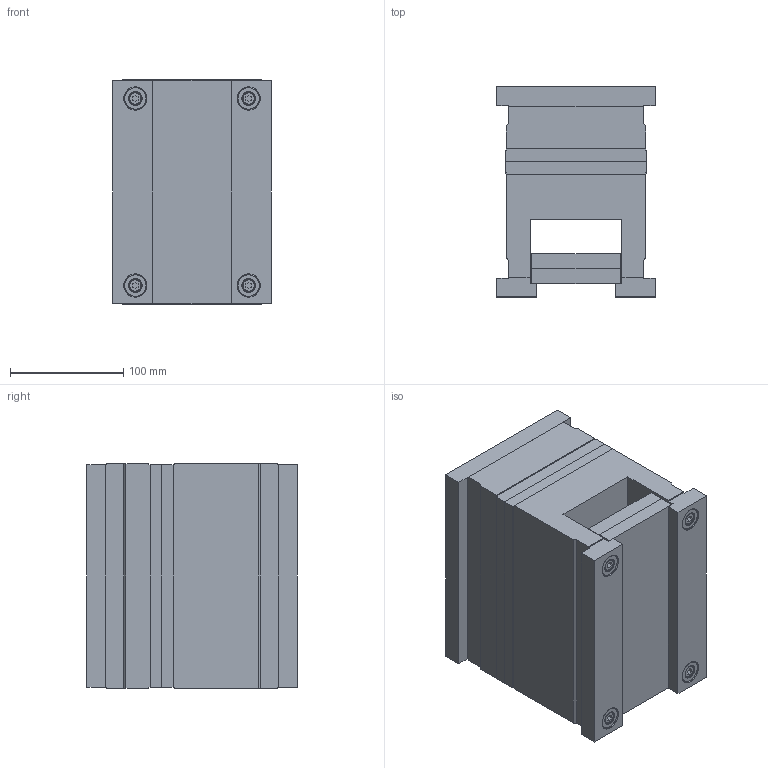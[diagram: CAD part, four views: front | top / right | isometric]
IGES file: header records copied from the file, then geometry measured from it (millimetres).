
Start section: SolidWorks IGES FILE using analytic representation for surfaces
Global section: file name: C:\Documents and Settings\K.P\My Documents\Mechanical\ALMO\CATL_EUR\RECT\1253.IGS; native system: SolidWorks 2001Plus by SolidWorks Corporation; preprocessor: Version 5.3; author: Pavel; date: 020709.091524; units: millimetre
Bounding box: 140 x 185.5 x 198 mm (x, y, z)
Surface area: 409465.6 mm2 (no closed solid volume)
Topology: 0 solids, 0 shells, 706 faces, 10312 edges, 10304 vertices
Faces by surface type: revolution 452, bspline 254
